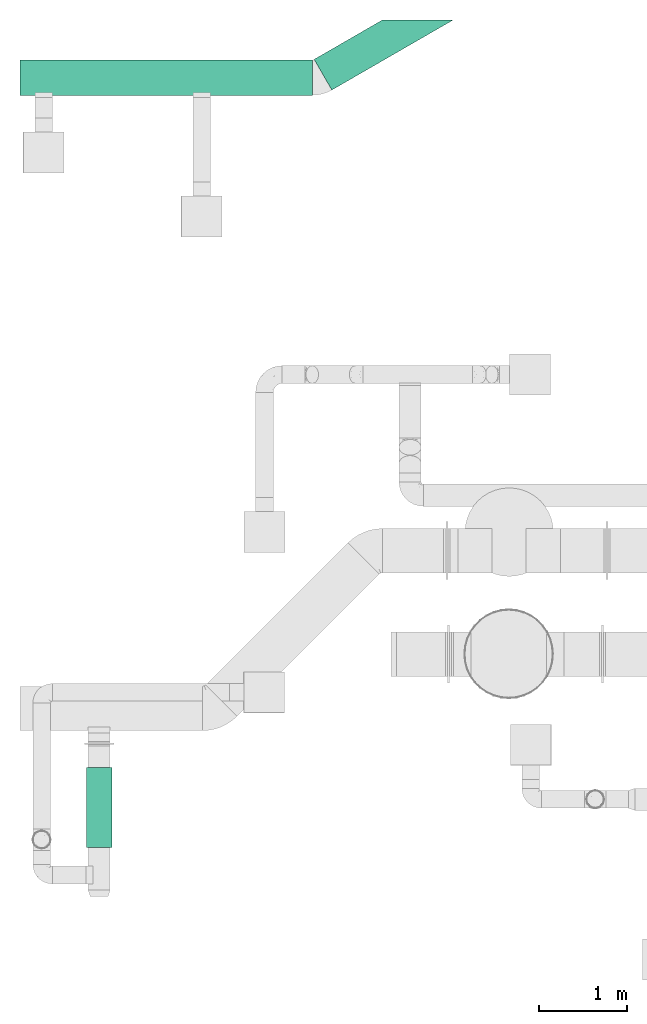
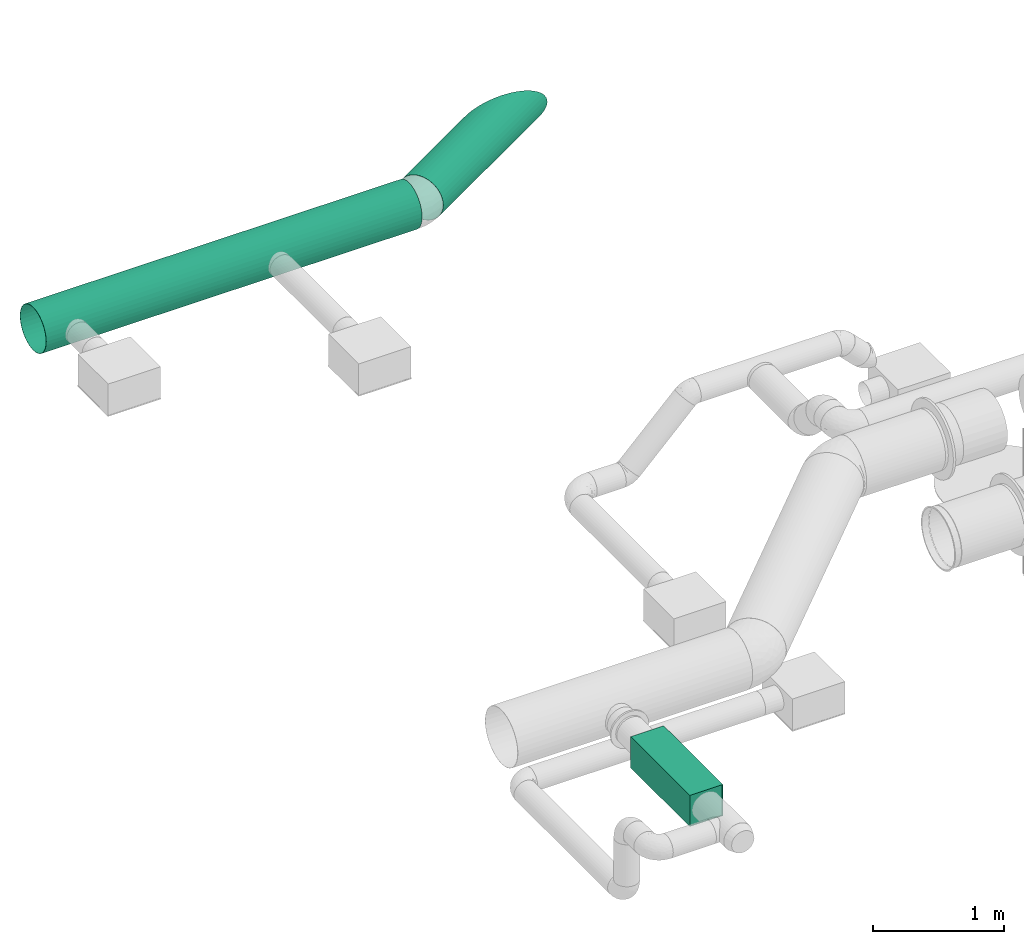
# One storey, part 27 of 31: 2 flow segments, 1 flow treatment device.
"""IFC2X3 building model written with IfcOpenShell, lengths in millimetres."""

from ifc_helpers import new_model, entity, si_unit, converted_unit, derived_unit, direction, frame, origin_with_axes, place, context, subcontext, project, spatial, open_shell, faceted_brep, surface_model, source, transform, mapped, type_object, element, save


model = new_model("IFC2X3")

# Units and contexts
model_context = context("Model", 3, precision=0.01, world=frame((0.0, 4.29681676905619e-09, 0.0)), true_north=direction((4.01073788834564e-13, 1.0)))
plan_context = context("Plan", 3, precision=0.01, world=frame((0.0, 4.29681676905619e-09, 0.0)), true_north=direction((4.01073788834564e-13, 1.0)))
body_context = subcontext(model_context, "Body", "Model", "MODEL_VIEW")
ifc_project = project(units=[converted_unit("PLANEANGLEUNIT", "DEGREE", entity("IfcPositiveLengthMeasure", 0.0174532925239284), si_unit("PLANEANGLEUNIT", "RADIAN"), dimensions=[0, 0, 0, 0, 0, 0, 0]), si_unit("AREAUNIT", "SQUARE_METRE"), si_unit("LENGTHUNIT", "METRE", prefix="MILLI"), si_unit("MASSUNIT", "GRAM", prefix="KILO"), si_unit("POWERUNIT", "WATT"), si_unit("PRESSUREUNIT", "PASCAL", prefix="KILO"), si_unit("FORCEUNIT", "NEWTON", prefix="KILO"), si_unit("ELECTRICVOLTAGEUNIT", "VOLT"), si_unit("ELECTRICCURRENTUNIT", "AMPERE"), si_unit("THERMODYNAMICTEMPERATUREUNIT", "DEGREE_CELSIUS"), si_unit("TIMEUNIT", "SECOND"), si_unit("VOLUMEUNIT", "CUBIC_METRE"), derived_unit("LINEARVELOCITYUNIT", [(si_unit("LENGTHUNIT", "METRE"), 1), (si_unit("TIMEUNIT", "SECOND"), -1)]), derived_unit("VOLUMETRICFLOWRATEUNIT", [(si_unit("VOLUMEUNIT", "CUBIC_METRE"), 1), (si_unit("TIMEUNIT", "SECOND"), -1)]), derived_unit("THERMALTRANSMITTANCEUNIT", [(si_unit("POWERUNIT", "WATT"), 1), (si_unit("THERMODYNAMICTEMPERATUREUNIT", "KELVIN"), -1), (si_unit("AREAUNIT", "SQUARE_METRE"), -1)]), derived_unit("SOUNDPRESSUREUNIT", [(si_unit("PRESSUREUNIT", "PASCAL"), 1)])], contexts=[model_context, plan_context])

# Site, building, storey
site_placement = place(None, frame((0.0, -4.29681676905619e-09, 0.0), z_axis=(0.0, 0.0, 1.0), x_axis=(1.0, 0.0, 0.0)))
site = spatial("IfcSite", under=ifc_project, at=site_placement, CompositionType="ELEMENT")
building_placement = place(site_placement, frame((0.0, 4.29681676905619e-09, 0.0), z_axis=(0.0, 0.0, 1.0), x_axis=(1.0, 0.0, 0.0)))
building = spatial("IfcBuilding", under=site, at=building_placement, Name="mc-building", CompositionType="ELEMENT")
storey_placement = place(building_placement, frame((0.0, 0.0, 210900.0), z_axis=(0.0, 0.0, 1.0), x_axis=(1.0, 0.0, 0.0)))
storey = spatial("IfcBuildingStorey", under=building, at=storey_placement, Name="Nivå F", CompositionType="ELEMENT", Elevation=210900.0)

# Flow treatment device
duct_silencer_type = type_object("IfcDuctSilencerType", Name="LKR-250-900", PredefinedType="ROUND")
shared_shape = source(origin_with_axes(), body_context, "Body", "SurfaceModel", [
    surface_model("IfcShellBasedSurfaceModel", [(-450.0, -145.0, -145.1), (-450.0, 145.0, -145.1), (450.0, 145.0, -145.1), (450.0, -145.0, -145.1), (450.0, -145.0, -144.9), (450.0, 145.0, -144.9), (-450.0, 145.0, -144.9), (-450.0, -145.0, -144.9), (-450.0, -145.0, 144.9), (-450.0, 145.0, 144.9), (450.0, 145.0, 144.9), (450.0, -145.0, 144.9), (450.0, -145.0, 145.1), (450.0, 145.0, 145.1), (-450.0, 145.0, 145.1), (-450.0, -145.0, 145.1), (-450.0, 144.9, -145.0), (450.0, 144.9, -145.0), (450.0, 144.9, 145.0), (-450.0, 144.9, 145.0), (-450.0, 145.1, 145.0), (450.0, 145.1, 145.0), (450.0, 145.1, -145.0), (-450.0, 145.1, -145.0), (-450.0, -145.1, -145.0), (450.0, -145.1, -145.0), (450.0, -145.1, 145.0), (-450.0, -145.1, 145.0), (-450.0, -144.9, 145.0), (450.0, -144.9, 145.0), (450.0, -144.9, -145.0), (-450.0, -144.9, -145.0), (439.9, 144.89999, 144.9), (439.9, 144.89999, -144.89999), (439.9, -144.9, -144.89999), (439.9, -144.9, 144.9), (440.09999, -144.9, 144.9), (440.09999, -144.9, -144.89999), (440.09999, 144.89999, 144.9), (440.09999, 144.89999, -144.89999), (-440.09999, 144.89999, 144.9), (-440.09999, 144.89999, -144.89999), (-440.09999, -144.9, -144.89999), (-440.09999, -144.9, 144.9), (-439.9, -144.9, 144.9), (-439.9, -144.9, -144.89999), (-439.9, 144.89999, 144.9), (-439.9, 144.89999, -144.89999)], [open_shell([[[0, 1, 2]], [[2, 3, 0]], [[4, 5, 6]], [[6, 7, 4]], [[2, 1, 6]], [[6, 5, 2]], [[3, 2, 5]], [[5, 4, 3]], [[0, 3, 4]], [[4, 7, 0]], [[1, 0, 7]], [[7, 6, 1]], [[8, 9, 10]], [[10, 11, 8]], [[12, 13, 14]], [[14, 15, 12]], [[10, 9, 14]], [[14, 13, 10]], [[11, 10, 13]], [[13, 12, 11]], [[8, 11, 12]], [[12, 15, 8]], [[9, 8, 15]], [[15, 14, 9]], [[16, 17, 18]], [[18, 19, 16]], [[20, 21, 22]], [[22, 23, 20]], [[18, 17, 21]], [[22, 21, 17]], [[19, 18, 21]], [[21, 20, 19]], [[16, 19, 20]], [[20, 23, 16]], [[17, 16, 23]], [[23, 22, 17]], [[24, 25, 26]], [[26, 27, 24]], [[28, 29, 30]], [[30, 31, 28]], [[26, 25, 29]], [[30, 29, 25]], [[27, 26, 29]], [[29, 28, 27]], [[24, 27, 28]], [[28, 31, 24]], [[25, 24, 31]], [[31, 30, 25]], [[32, 33, 34]], [[34, 35, 32]], [[36, 37, 38]], [[39, 38, 37]], [[34, 33, 37]], [[39, 37, 33]], [[35, 34, 37]], [[37, 36, 35]], [[32, 35, 36]], [[36, 38, 32]], [[33, 32, 39]], [[38, 39, 32]], [[40, 41, 42]], [[42, 43, 40]], [[44, 45, 46]], [[47, 46, 45]], [[42, 41, 45]], [[47, 45, 41]], [[43, 42, 45]], [[45, 44, 43]], [[40, 43, 44]], [[44, 46, 40]], [[41, 40, 47]], [[46, 47, 40]]])]),
])
flow_treatment_device_placement = place(storey_placement, frame((715332.69489, 437313.15338, 3950.0), z_axis=(0.0, 0.0, 1.0), x_axis=(0.0, 1.0, 0.0)))
element("IfcFlowTreatmentDevice", 1, at=flow_treatment_device_placement, inside=storey, type_object=duct_silencer_type, Name="LKR-250-900", context=body_context, shape_type="MappedRepresentation", body=[
    mapped(shared_shape, transform((0.0, 0.0, 0.0), scale=1.0)),
])

# Flow segments
duct_segment_type = type_object("IfcDuctSegmentType", Name="KK001T - Spiro kanaler, Forsinket stål", PredefinedType="RIGIDSEGMENT")
flow_segment_1_placement = place(storey_placement, frame((710685.69609, 445560.86213, 3420.0), z_axis=(0.0, 0.0, 1.0), x_axis=(1.0, 0.0, 0.0)))
element("IfcFlowSegment", 2, at=flow_segment_1_placement, inside=storey, type_object=duct_segment_type, Name="KK001T - Spiro kanaler, Forsinket stål", context=body_context, shape_type="Brep", body=[
    faceted_brep([(3752.29140999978, 194.991935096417, -34.3823391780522), (3752.29140999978, 198.0, 0.0), (7055.7, 198.0, 0.0), (7055.7, 194.991935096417, -34.3823391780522), (3752.29140999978, 186.05913891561, -67.7199883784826), (7055.7, 186.05913891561, -67.7199883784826), (3752.29140999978, 171.473029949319, -99.0000000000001), (7055.7, 171.473029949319, -99.0000000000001), (3752.29140999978, 151.676799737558, -127.271946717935), (7055.7, 151.676799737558, -127.271946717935), (3752.29140999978, 127.271946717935, -151.676799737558), (7055.7, 127.271946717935, -151.676799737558), (3752.29140999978, 99.0, -171.473029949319), (7055.7, 99.0, -171.473029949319), (3752.29140999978, 67.7199883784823, -186.05913891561), (7055.7, 67.7199883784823, -186.05913891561), (3752.29140999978, 34.3823391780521, -194.991935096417), (7055.7, 34.3823391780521, -194.991935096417), (3752.29140999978, -3.63720099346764e-14, -198.0), (7055.7, -3.63720099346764e-14, -198.0), (3752.29140999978, -34.3823391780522, -194.991935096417), (7055.7, -34.3823391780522, -194.991935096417), (3752.29140999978, -67.7199883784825, -186.05913891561), (7055.7, -67.7199883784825, -186.05913891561), (3752.29140999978, -99.0000000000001, -171.473029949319), (7055.7, -99.0000000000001, -171.473029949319), (3752.29140999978, -127.271946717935, -151.676799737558), (7055.7, -127.271946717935, -151.676799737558), (3752.29140999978, -151.676799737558, -127.271946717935), (7055.7, -151.676799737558, -127.271946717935), (3752.29140999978, -171.473029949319, -98.9999999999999), (7055.7, -171.473029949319, -98.9999999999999), (3752.29140999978, -186.05913891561, -67.7199883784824), (7055.7, -186.05913891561, -67.7199883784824), (3752.29140999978, -194.991935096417, -34.3823391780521), (7055.7, -194.991935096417, -34.3823391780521), (3752.29140999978, -198.0, 2.42480066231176e-14), (7055.7, -198.0, 2.42480066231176e-14), (3752.29140999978, -194.991935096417, 34.3823391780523), (7055.7, -194.991935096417, 34.3823391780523), (3752.29140999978, -186.05913891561, 67.7199883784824), (7055.7, -186.05913891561, 67.7199883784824), (3752.29140999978, -171.473029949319, 99.0), (7055.7, -171.473029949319, 99.0), (3752.29140999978, -151.676799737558, 127.271946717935), (7055.7, -151.676799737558, 127.271946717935), (3752.29140999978, -127.271946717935, 151.676799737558), (7055.7, -127.271946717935, 151.676799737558), (3752.29140999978, -99.0, 171.473029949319), (7055.7, -99.0, 171.473029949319), (3752.29140999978, -67.7199883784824, 186.05913891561), (7055.7, -67.7199883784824, 186.05913891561), (3752.29140999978, -34.3823391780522, 194.991935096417), (7055.7, -34.3823391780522, 194.991935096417), (3752.29140999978, 1.21240033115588e-14, 198.0), (7055.7, 1.21240033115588e-14, 198.0), (3752.29140999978, 34.3823391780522, 194.991935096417), (7055.7, 34.3823391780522, 194.991935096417), (3752.29140999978, 67.7199883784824, 186.05913891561), (7055.7, 67.7199883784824, 186.05913891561), (3752.29140999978, 99.0, 171.473029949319), (7055.7, 99.0, 171.473029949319), (3752.29140999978, 127.271946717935, 151.676799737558), (7055.7, 127.271946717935, 151.676799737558), (3752.29140999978, 151.676799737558, 127.271946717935), (7055.7, 151.676799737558, 127.271946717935), (3752.29140999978, 171.473029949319, 99.0), (7055.7, 171.473029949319, 99.0), (3752.29140999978, 186.05913891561, 67.7199883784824), (7055.7, 186.05913891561, 67.7199883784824), (3752.29140999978, 194.991935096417, 34.3823391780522), (7055.7, 194.991935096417, 34.3823391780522), (3752.29140999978, 200.0, 0.0), (3752.29140999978, 196.961550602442, -34.7296355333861), (7055.7, 196.961550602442, -34.7296355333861), (7055.7, 200.0, 0.0), (3752.29140999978, 196.961550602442, 34.7296355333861), (7055.7, 196.961550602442, 34.7296355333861), (3752.29140999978, 187.938524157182, 68.4040286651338), (7055.7, 187.938524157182, 68.4040286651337), (3752.29140999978, 173.205080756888, 100.0), (7055.7, 173.205080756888, 100.0), (3752.29140999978, 153.208888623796, 128.557521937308), (7055.7, 153.208888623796, 128.557521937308), (3752.29140999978, 128.557521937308, 153.208888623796), (7055.7, 128.557521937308, 153.208888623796), (3752.29140999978, 100.0, 173.205080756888), (7055.7, 100.0, 173.205080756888), (3752.29140999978, 68.4040286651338, 187.938524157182), (7055.7, 68.4040286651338, 187.938524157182), (3752.29140999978, 34.7296355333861, 196.961550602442), (7055.7, 34.7296355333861, 196.961550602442), (3752.29140999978, 1.22464679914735e-14, 200.0), (7055.7, 1.22464679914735e-14, 200.0), (3752.29140999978, -34.7296355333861, 196.961550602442), (7055.7, -34.7296355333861, 196.961550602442), (3752.29140999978, -68.4040286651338, 187.938524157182), (7055.7, -68.4040286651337, 187.938524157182), (3752.29140999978, -100.0, 173.205080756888), (7055.7, -100.0, 173.205080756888), (3752.29140999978, -128.557521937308, 153.208888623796), (7055.7, -128.557521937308, 153.208888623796), (3752.29140999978, -153.208888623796, 128.557521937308), (7055.7, -153.208888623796, 128.557521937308), (3752.29140999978, -173.205080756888, 100.0), (7055.7, -173.205080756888, 100.0), (3752.29140999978, -187.938524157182, 68.4040286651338), (7055.7, -187.938524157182, 68.4040286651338), (3752.29140999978, -196.961550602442, 34.7296355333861), (7055.7, -196.961550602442, 34.7296355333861), (3752.29140999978, -200.0, 2.44929359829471e-14), (7055.7, -200.0, 2.44929359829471e-14), (3752.29140999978, -196.961550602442, -34.729635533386), (7055.7, -196.961550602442, -34.729635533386), (3752.29140999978, -187.938524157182, -68.4040286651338), (7055.7, -187.938524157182, -68.4040286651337), (3752.29140999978, -173.205080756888, -99.9999999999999), (7055.7, -173.205080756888, -99.9999999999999), (3752.29140999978, -153.208888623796, -128.557521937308), (7055.7, -153.208888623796, -128.557521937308), (3752.29140999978, -128.557521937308, -153.208888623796), (7055.7, -128.557521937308, -153.208888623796), (3752.29140999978, -100.0, -173.205080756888), (7055.7, -100.0, -173.205080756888), (3752.29140999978, -68.4040286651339, -187.938524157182), (7055.7, -68.4040286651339, -187.938524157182), (3752.29140999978, -34.7296355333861, -196.961550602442), (7055.7, -34.7296355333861, -196.961550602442), (3752.29140999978, -3.67394039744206e-14, -200.0), (7055.7, -3.67394039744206e-14, -200.0), (3752.29140999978, 34.729635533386, -196.961550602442), (7055.7, 34.729635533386, -196.961550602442), (3752.29140999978, 68.4040286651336, -187.938524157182), (7055.7, 68.4040286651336, -187.938524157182), (3752.29140999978, 100.0, -173.205080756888), (7055.7, 100.0, -173.205080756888), (3752.29140999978, 128.557521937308, -153.208888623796), (7055.7, 128.557521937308, -153.208888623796), (3752.29140999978, 153.208888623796, -128.557521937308), (7055.7, 153.208888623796, -128.557521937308), (3752.29140999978, 173.205080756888, -100.0), (7055.7, 173.205080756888, -100.0), (3752.29140999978, 187.938524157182, -68.4040286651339), (7055.7, 187.938524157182, -68.4040286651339)], [[[0, 1, 2, 3]], [[4, 0, 3, 5]], [[6, 4, 5, 7]], [[8, 6, 7, 9]], [[10, 8, 9, 11]], [[12, 10, 11, 13]], [[14, 12, 13, 15]], [[16, 14, 15, 17]], [[18, 16, 17, 19]], [[20, 18, 19, 21]], [[22, 20, 21, 23]], [[24, 22, 23, 25]], [[26, 24, 25, 27]], [[28, 26, 27, 29]], [[30, 28, 29, 31]], [[32, 30, 31, 33]], [[34, 32, 33, 35]], [[36, 34, 35, 37]], [[38, 36, 37, 39]], [[40, 38, 39, 41]], [[42, 40, 41, 43]], [[44, 42, 43, 45]], [[46, 44, 45, 47]], [[48, 46, 47, 49]], [[50, 48, 49, 51]], [[52, 50, 51, 53]], [[54, 52, 53, 55]], [[56, 54, 55, 57]], [[58, 56, 57, 59]], [[60, 58, 59, 61]], [[62, 60, 61, 63]], [[64, 62, 63, 65]], [[66, 64, 65, 67]], [[68, 66, 67, 69]], [[70, 68, 69, 71]], [[1, 70, 71, 2]], [[72, 73, 74, 75]], [[76, 72, 75, 77]], [[78, 76, 77, 79]], [[80, 78, 79, 81]], [[82, 80, 81, 83]], [[84, 82, 83, 85]], [[86, 84, 85, 87]], [[88, 86, 87, 89]], [[90, 88, 89, 91]], [[92, 90, 91, 93]], [[94, 92, 93, 95]], [[96, 94, 95, 97]], [[98, 96, 97, 99]], [[100, 98, 99, 101]], [[102, 100, 101, 103]], [[104, 102, 103, 105]], [[106, 104, 105, 107]], [[108, 106, 107, 109]], [[110, 108, 109, 111]], [[112, 110, 111, 113]], [[114, 112, 113, 115]], [[116, 114, 115, 117]], [[118, 116, 117, 119]], [[120, 118, 119, 121]], [[122, 120, 121, 123]], [[124, 122, 123, 125]], [[126, 124, 125, 127]], [[128, 126, 127, 129]], [[130, 128, 129, 131]], [[132, 130, 131, 133]], [[134, 132, 133, 135]], [[136, 134, 135, 137]], [[138, 136, 137, 139]], [[140, 138, 139, 141]], [[142, 140, 141, 143]], [[73, 142, 143, 74]], [[75, 74, 143, 141, 139, 137, 135, 133, 131, 129, 127, 125, 123, 121, 119, 117, 115, 113, 111, 109, 107, 105, 103, 101, 99, 97, 95, 93, 91, 89, 87, 85, 83, 81, 79, 77], [2, 71, 69, 67, 65, 63, 61, 59, 57, 55, 53, 51, 49, 47, 45, 43, 41, 39, 37, 35, 33, 31, 29, 27, 25, 23, 21, 19, 17, 15, 13, 11, 9, 7, 5, 3]], [[76, 78, 80, 82, 84, 86, 88, 90, 92, 94, 96, 98, 100, 102, 104, 106, 108, 110, 112, 114, 116, 118, 120, 122, 124, 126, 128, 130, 132, 134, 136, 138, 140, 142, 73, 72], [4, 6, 8, 10, 12, 14, 16, 18, 20, 22, 24, 26, 28, 30, 32, 34, 36, 38, 40, 42, 44, 46, 48, 50, 52, 54, 56, 58, 60, 62, 64, 66, 68, 70, 1, 0]]], orient=[[False], [False], [False], [False], [False], [False], [False], [False], [False], [False], [False], [False], [False], [False], [False], [False], [False], [False], [False], [False], [False], [False], [False], [False], [False], [False], [False], [False], [False], [False], [False], [False], [False], [False], [False], [False], [False], [False], [False], [False], [False], [False], [False], [False], [False], [False], [False], [False], [False], [False], [False], [False], [False], [False], [False], [False], [False], [False], [False], [False], [False], [False], [False], [False], [False], [False], [False], [False], [False], [False], [False], [False], [False, False], [False, False]]),
])
flow_segment_2_placement = place(storey_placement, frame((717861.38829, 445593.01603, 3420.0), z_axis=(0.0, 0.0, 1.0), x_axis=(0.866025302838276, 0.500000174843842, 0.0)))
element("IfcFlowSegment", 3, at=flow_segment_2_placement, inside=storey, type_object=duct_segment_type, Name="KK001T - Spiro kanaler, Forsinket stål", context=body_context, shape_type="Brep", body=[
    faceted_brep([(893.870535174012, 198.0, 0.0), (899.080653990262, 194.991935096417, -34.3823391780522), (0.0, 194.991935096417, -34.3823391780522), (0.0, 198.0, 0.0), (914.55270361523, 186.05913891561, -67.7199883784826), (0.0, 186.05913891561, -67.7199883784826), (939.816573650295, 171.473029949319, -99.0000000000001), (0.0, 171.473029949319, -99.0000000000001), (974.104634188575, 151.676799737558, -127.271946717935), (0.0, 151.676799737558, -127.271946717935), (1016.37505986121, 127.271946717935, -151.676799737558), (0.0, 127.271946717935, -151.676799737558), (1065.34348517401, 99.0, -171.473029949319), (0.0, 99.0, -171.473029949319), (1119.52202930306, 67.7199883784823, -186.05913891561), (0.0, 67.7199883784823, -186.05913891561), (1177.26450460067, 34.3823391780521, -194.991935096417), (0.0, 34.3823391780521, -194.991935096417), (1236.81643517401, -3.63720099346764e-14, -198.0), (0.0, -3.63720099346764e-14, -198.0), (1296.36836574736, -34.3823391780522, -194.991935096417), (0.0, -34.3823391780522, -194.991935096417), (1354.11084104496, -67.7199883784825, -186.05913891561), (0.0, -67.7199883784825, -186.05913891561), (1408.28938517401, -99.0000000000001, -171.473029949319), (0.0, -99.0000000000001, -171.473029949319), (1457.25781048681, -127.271946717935, -151.676799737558), (0.0, -127.271946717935, -151.676799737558), (1499.52823615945, -151.676799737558, -127.271946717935), (0.0, -151.676799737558, -127.271946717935), (1533.81629669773, -171.473029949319, -98.9999999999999), (0.0, -171.473029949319, -98.9999999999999), (1559.08016673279, -186.05913891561, -67.7199883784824), (0.0, -186.05913891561, -67.7199883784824), (1574.55221635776, -194.991935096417, -34.3823391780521), (0.0, -194.991935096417, -34.3823391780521), (1579.76233517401, -198.0, 2.42480066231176e-14), (0.0, -198.0, 2.42480066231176e-14), (1574.55221635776, -194.991935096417, 34.3823391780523), (0.0, -194.991935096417, 34.3823391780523), (1559.08016673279, -186.05913891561, 67.7199883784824), (0.0, -186.05913891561, 67.7199883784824), (1533.81629669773, -171.473029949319, 99.0), (0.0, -171.473029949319, 99.0), (1499.52823615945, -151.676799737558, 127.271946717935), (0.0, -151.676799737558, 127.271946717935), (1457.25781048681, -127.271946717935, 151.676799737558), (0.0, -127.271946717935, 151.676799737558), (1408.28938517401, -99.0, 171.473029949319), (0.0, -99.0, 171.473029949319), (1354.11084104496, -67.7199883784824, 186.05913891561), (0.0, -67.7199883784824, 186.05913891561), (1296.36836574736, -34.3823391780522, 194.991935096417), (0.0, -34.3823391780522, 194.991935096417), (1236.81643517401, 1.21240033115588e-14, 198.0), (0.0, 1.21240033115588e-14, 198.0), (1177.26450460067, 34.3823391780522, 194.991935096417), (0.0, 34.3823391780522, 194.991935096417), (1119.52202930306, 67.7199883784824, 186.05913891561), (0.0, 67.7199883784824, 186.05913891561), (1065.34348517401, 99.0, 171.473029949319), (0.0, 99.0, 171.473029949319), (1016.37505986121, 127.271946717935, 151.676799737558), (0.0, 127.271946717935, 151.676799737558), (974.104634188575, 151.676799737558, 127.271946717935), (0.0, 151.676799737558, 127.271946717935), (939.816573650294, 171.473029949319, 99.0), (0.0, 171.473029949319, 99.0), (914.55270361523, 186.05913891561, 67.7199883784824), (0.0, 186.05913891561, 67.7199883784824), (899.080653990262, 194.991935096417, 34.3823391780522), (0.0, 194.991935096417, 34.3823391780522), (895.669181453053, 196.961550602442, -34.7296355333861), (890.406435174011, 200.0, 0.0), (0.0, 200.0, 0.0), (0.0, 196.961550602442, -34.7296355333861), (895.669181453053, 196.961550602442, 34.7296355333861), (0.0, 196.961550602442, 34.7296355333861), (911.297514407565, 187.938524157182, 68.4040286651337), (0.0, 187.938524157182, 68.4040286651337), (936.816575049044, 173.205080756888, 100.0), (0.0, 173.205080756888, 100.0), (971.450979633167, 153.208888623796, 128.557521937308), (0.0, 153.208888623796, 128.557521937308), (1014.1483793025, 128.557521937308, 153.208888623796), (0.0, 128.557521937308, 153.208888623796), (1063.61143517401, 100.0, 173.205080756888), (0.0, 100.0, 173.205080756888), (1118.33723732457, 68.4040286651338, 187.938524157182), (0.0, 68.4040286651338, 187.938524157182), (1176.66296994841, 34.7296355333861, 196.961550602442), (0.0, 34.7296355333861, 196.961550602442), (1236.81643517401, 1.22464679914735e-14, 200.0), (0.0, 1.22464679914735e-14, 200.0), (1296.96990039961, -34.7296355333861, 196.961550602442), (0.0, -34.7296355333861, 196.961550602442), (1355.29563302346, -68.4040286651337, 187.938524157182), (0.0, -68.4040286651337, 187.938524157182), (1410.02143517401, -100.0, 173.205080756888), (0.0, -100.0, 173.205080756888), (1459.48449104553, -128.557521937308, 153.208888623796), (0.0, -128.557521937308, 153.208888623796), (1502.18189071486, -153.208888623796, 128.557521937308), (0.0, -153.208888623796, 128.557521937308), (1536.81629529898, -173.205080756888, 100.0), (0.0, -173.205080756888, 100.0), (1562.33535594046, -187.938524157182, 68.4040286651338), (0.0, -187.938524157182, 68.4040286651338), (1577.96368889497, -196.961550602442, 34.7296355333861), (0.0, -196.961550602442, 34.7296355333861), (1583.22643517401, -200.0, 2.44929359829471e-14), (0.0, -200.0, 2.44929359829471e-14), (1577.96368889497, -196.961550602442, -34.729635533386), (0.0, -196.961550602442, -34.729635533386), (1562.33535594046, -187.938524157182, -68.4040286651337), (0.0, -187.938524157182, -68.4040286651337), (1536.81629529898, -173.205080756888, -99.9999999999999), (0.0, -173.205080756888, -99.9999999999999), (1502.18189071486, -153.208888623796, -128.557521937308), (0.0, -153.208888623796, -128.557521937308), (1459.48449104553, -128.557521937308, -153.208888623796), (0.0, -128.557521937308, -153.208888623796), (1410.02143517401, -100.0, -173.205080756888), (0.0, -100.0, -173.205080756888), (1355.29563302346, -68.4040286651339, -187.938524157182), (0.0, -68.4040286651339, -187.938524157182), (1296.96990039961, -34.7296355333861, -196.961550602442), (0.0, -34.7296355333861, -196.961550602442), (1236.81643517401, -3.67394039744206e-14, -200.0), (0.0, -3.67394039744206e-14, -200.0), (1176.66296994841, 34.729635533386, -196.961550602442), (0.0, 34.729635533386, -196.961550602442), (1118.33723732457, 68.4040286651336, -187.938524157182), (0.0, 68.4040286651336, -187.938524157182), (1063.61143517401, 100.0, -173.205080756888), (0.0, 100.0, -173.205080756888), (1014.1483793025, 128.557521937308, -153.208888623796), (0.0, 128.557521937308, -153.208888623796), (971.450979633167, 153.208888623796, -128.557521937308), (0.0, 153.208888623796, -128.557521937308), (936.816575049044, 173.205080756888, -100.0), (0.0, 173.205080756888, -100.0), (911.297514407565, 187.938524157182, -68.4040286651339), (0.0, 187.938524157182, -68.4040286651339)], [[[0, 1, 2, 3]], [[1, 4, 5, 2]], [[4, 6, 7, 5]], [[6, 8, 9, 7]], [[8, 10, 11, 9]], [[10, 12, 13, 11]], [[12, 14, 15, 13]], [[14, 16, 17, 15]], [[16, 18, 19, 17]], [[18, 20, 21, 19]], [[20, 22, 23, 21]], [[22, 24, 25, 23]], [[24, 26, 27, 25]], [[26, 28, 29, 27]], [[28, 30, 31, 29]], [[30, 32, 33, 31]], [[32, 34, 35, 33]], [[34, 36, 37, 35]], [[36, 38, 39, 37]], [[38, 40, 41, 39]], [[40, 42, 43, 41]], [[42, 44, 45, 43]], [[44, 46, 47, 45]], [[46, 48, 49, 47]], [[48, 50, 51, 49]], [[50, 52, 53, 51]], [[52, 54, 55, 53]], [[54, 56, 57, 55]], [[56, 58, 59, 57]], [[58, 60, 61, 59]], [[60, 62, 63, 61]], [[62, 64, 65, 63]], [[64, 66, 67, 65]], [[66, 68, 69, 67]], [[68, 70, 71, 69]], [[70, 0, 3, 71]], [[72, 73, 74, 75]], [[73, 76, 77, 74]], [[76, 78, 79, 77]], [[78, 80, 81, 79]], [[80, 82, 83, 81]], [[82, 84, 85, 83]], [[84, 86, 87, 85]], [[86, 88, 89, 87]], [[88, 90, 91, 89]], [[90, 92, 93, 91]], [[92, 94, 95, 93]], [[94, 96, 97, 95]], [[96, 98, 99, 97]], [[98, 100, 101, 99]], [[100, 102, 103, 101]], [[102, 104, 105, 103]], [[104, 106, 107, 105]], [[106, 108, 109, 107]], [[108, 110, 111, 109]], [[110, 112, 113, 111]], [[112, 114, 115, 113]], [[114, 116, 117, 115]], [[116, 118, 119, 117]], [[118, 120, 121, 119]], [[120, 122, 123, 121]], [[122, 124, 125, 123]], [[124, 126, 127, 125]], [[126, 128, 129, 127]], [[128, 130, 131, 129]], [[130, 132, 133, 131]], [[132, 134, 135, 133]], [[134, 136, 137, 135]], [[136, 138, 139, 137]], [[138, 140, 141, 139]], [[140, 142, 143, 141]], [[142, 72, 75, 143]], [[75, 74, 77, 79, 81, 83, 85, 87, 89, 91, 93, 95, 97, 99, 101, 103, 105, 107, 109, 111, 113, 115, 117, 119, 121, 123, 125, 127, 129, 131, 133, 135, 137, 139, 141, 143], [3, 2, 5, 7, 9, 11, 13, 15, 17, 19, 21, 23, 25, 27, 29, 31, 33, 35, 37, 39, 41, 43, 45, 47, 49, 51, 53, 55, 57, 59, 61, 63, 65, 67, 69, 71]], [[142, 140, 138, 136, 134, 132, 130, 128, 126, 124, 122, 120, 118, 116, 114, 112, 110, 108, 106, 104, 102, 100, 98, 96, 94, 92, 90, 88, 86, 84, 82, 80, 78, 76, 73, 72], [70, 68, 66, 64, 62, 60, 58, 56, 54, 52, 50, 48, 46, 44, 42, 40, 38, 36, 34, 32, 30, 28, 26, 24, 22, 20, 18, 16, 14, 12, 10, 8, 6, 4, 1, 0]]], orient=[[False], [False], [False], [False], [False], [False], [False], [False], [False], [False], [False], [False], [False], [False], [False], [False], [False], [False], [False], [False], [False], [False], [False], [False], [False], [False], [False], [False], [False], [False], [False], [False], [False], [False], [False], [False], [False], [False], [False], [False], [False], [False], [False], [False], [False], [False], [False], [False], [False], [False], [False], [False], [False], [False], [False], [False], [False], [False], [False], [False], [False], [False], [False], [False], [False], [False], [False], [False], [False], [False], [False], [False], [False, False], [False, False]]),
])

save(model, "model.ifc")
